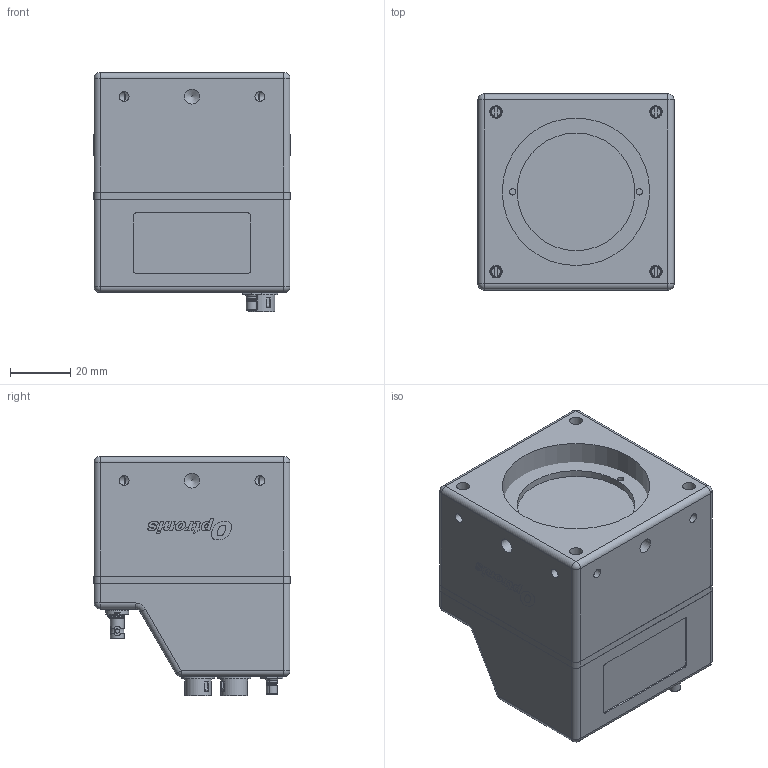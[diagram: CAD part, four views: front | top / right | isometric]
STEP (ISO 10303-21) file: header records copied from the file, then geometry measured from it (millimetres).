
FILE_DESCRIPTION(/* description */ ('Cyclone'),/* implementation_level */ '2;1');
FILE_NAME(/* name */ 'C:\Optronis\Inv\1200 Cyclone\1200-MG-14_Color.stp',/* time_stamp */ '2022-02-08T07:35:23+01:00',/* author */ ('aba'),/* organization */ (''),/* preprocessor_version */ 'ST-DEVELOPER v18.1',/* originating_system */ 'Autodesk Inventor 2022',/* authorisation */ '');
FILE_SCHEMA (('CONFIG_CONTROL_DESIGN'));
Products named in the file (27): 1200-MG-14; 1200-ED-02-A; 34-1028; 34-1028_Mutter; 1200-ED-03-D; Lumex LPA-C041301S-10; 1200-MD-02-C; 1200-MD-03-A; 1200-MD-04; 1200-MD-05-A; 1200-MD-06-A; 1200-MD-31; 1200-MD-34; 1200-MD-38; 1200-MD-40; Hirose HR10A-7R-4S; Hirose HR10A-7R-6S; HRS10-7R-6S Mutter; 903-406j-51r_rev-a; Abstandsbolzen G-G 2,5x9; Abstandsbolzen G-S 2,5x10; Misumi CBSTSE2-4; 84 M2x6; 912M2,5x8; 912M2,5x18; 920 M2,5x12; 6798 M2
Assembly tree (54 placements, depth 3):
  1200-MG-14
    1200-ED-02-A
      34-1028  x4
      34-1028_Mutter  x4
    1200-ED-03-D
      Lumex LPA-C041301S-10
    1200-MD-02-C
    1200-MD-03-A
    1200-MD-04  x2
    1200-MD-05-A
    1200-MD-06-A
    1200-MD-31
    1200-MD-34
    1200-MD-38
    1200-MD-40
    Hirose HR10A-7R-4S
    Hirose HR10A-7R-6S
    HRS10-7R-6S Mutter  x2
    903-406j-51r_rev-a
    Abstandsbolzen G-G 2,5x9  x4
    Abstandsbolzen G-S 2,5x10  x6
    Misumi CBSTSE2-4  x2
    84 M2x6  x4
    912M2,5x8  x2
    912M2,5x18  x2
    920 M2,5x12  x4
    6798 M2  x4
Bounding box: 65.1 x 65.1 x 79.3 mm (x, y, z)
Volume: 92936.8 mm3; surface area: 79731.8 mm2
Topology: 47 solids, 160 shells, 2916 faces, 7930 edges, 5369 vertices
Faces by surface type: plane 1606, cylinder 656, bspline 426, cone 154, torus 64, sphere 10
Full cylindrical faces by diameter (mm): 0.45 x4, 0.46 x4, 0.51 x4, 0.61 x8, 0.8 x20, 1 x2, 1.1 x12, 1.25 x4, 1.4 x8, 1.567 x8, 1.68 x4, 2 x6, 2.013 x10, 2.1 x2, 2.2 x2, 2.5 x14, 2.7 x8, 2.8 x4, 3 x4, 3.05 x4, 3.242 x8, 3.5 x4, 3.59 x4, 3.6 x8, 3.962 x1, 4 x6, 4.134 x4, 4.5 x8, 4.55 x8, 4.978 x4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
Entity records: 93361 total; most frequent: CARTESIAN_POINT 39799, ORIENTED_EDGE 10835, DIRECTION 9286, EDGE_CURVE 5619, VERTEX_POINT 3855, LINE 3496, VECTOR 3496, AXIS2_PLACEMENT_3D 2895
